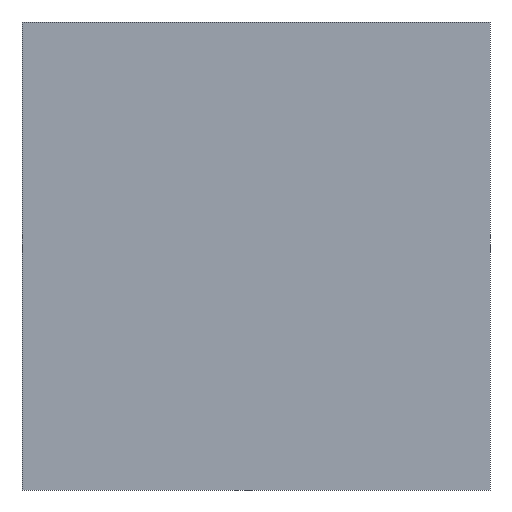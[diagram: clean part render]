
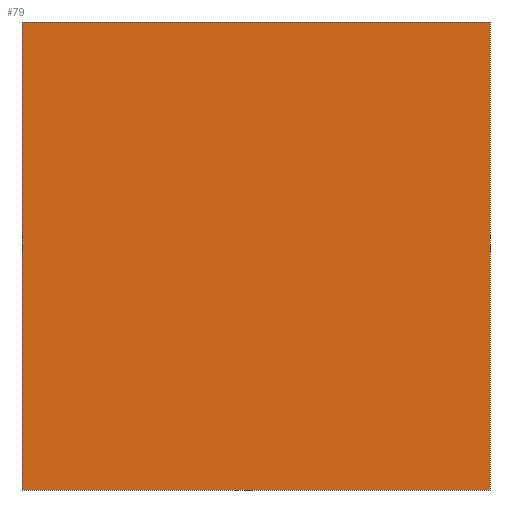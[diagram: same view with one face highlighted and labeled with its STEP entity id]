
A CAD part, front view. The second image highlights one B-rep face of the part: STEP entity #79.
In plain terms, the highlighted planar face has unit normal (0, -1, 0).
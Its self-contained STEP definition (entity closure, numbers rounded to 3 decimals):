
#1 = DIRECTION ( 'NONE',  ( 0., 0., -1. ) ) ;
#3 = DIRECTION ( 'NONE',  ( 0., 0., -1. ) ) ;
#18 = AXIS2_PLACEMENT_3D ( 'NONE', #170, #212, #173 ) ;
#21 = CARTESIAN_POINT ( 'NONE',  ( 0., 0., 900. ) ) ;
#22 = CARTESIAN_POINT ( 'NONE',  ( 0., 0., 900. ) ) ;
#27 = VECTOR ( 'NONE', #1, 1000. ) ;
#43 = DIRECTION ( 'NONE',  ( 1., 0., 0. ) ) ;
#67 = VERTEX_POINT ( 'NONE', #223 ) ;
#75 = ORIENTED_EDGE ( 'NONE', *, *, #149, .T. ) ;
#78 = PLANE ( 'NONE',  #18 ) ;
#79 = ADVANCED_FACE ( 'NONE', ( #151 ), #78, .F. ) ;
#80 = LINE ( 'NONE', #21, #206 ) ;
#92 = EDGE_CURVE ( 'NONE', #181, #186, #80, .T. ) ;
#98 = LINE ( 'NONE', #210, #195 ) ;
#120 = ORIENTED_EDGE ( 'NONE', *, *, #168, .F. ) ;
#126 = VECTOR ( 'NONE', #3, 1000. ) ;
#128 = CARTESIAN_POINT ( 'NONE',  ( -900., 0., 0. ) ) ;
#129 = LINE ( 'NONE', #208, #126 ) ;
#149 = EDGE_CURVE ( 'NONE', #218, #67, #98, .T. ) ;
#151 = FACE_OUTER_BOUND ( 'NONE', #177, .T. ) ;
#167 = LINE ( 'NONE', #227, #27 ) ;
#168 = EDGE_CURVE ( 'NONE', #186, #67, #129, .T. ) ;
#170 = CARTESIAN_POINT ( 'NONE',  ( 0., 0., 900. ) ) ;
#173 = DIRECTION ( 'NONE',  ( -1., 0., 0. ) ) ;
#174 = CARTESIAN_POINT ( 'NONE',  ( -900., 0., 900. ) ) ;
#177 = EDGE_LOOP ( 'NONE', ( #75, #120, #201, #183 ) ) ;
#181 = VERTEX_POINT ( 'NONE', #174 ) ;
#183 = ORIENTED_EDGE ( 'NONE', *, *, #204, .T. ) ;
#186 = VERTEX_POINT ( 'NONE', #22 ) ;
#188 = DIRECTION ( 'NONE',  ( 1., 0., 0. ) ) ;
#195 = VECTOR ( 'NONE', #43, 1000. ) ;
#201 = ORIENTED_EDGE ( 'NONE', *, *, #92, .F. ) ;
#204 = EDGE_CURVE ( 'NONE', #181, #218, #167, .T. ) ;
#206 = VECTOR ( 'NONE', #188, 1000. ) ;
#208 = CARTESIAN_POINT ( 'NONE',  ( 0., 0., 900. ) ) ;
#210 = CARTESIAN_POINT ( 'NONE',  ( 0., 0., 0. ) ) ;
#212 = DIRECTION ( 'NONE',  ( 0., 1., 0. ) ) ;
#218 = VERTEX_POINT ( 'NONE', #128 ) ;
#223 = CARTESIAN_POINT ( 'NONE',  ( 0., 0., 0. ) ) ;
#227 = CARTESIAN_POINT ( 'NONE',  ( -900., 0., 900. ) ) ;
